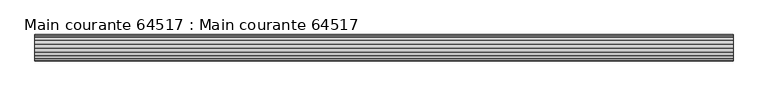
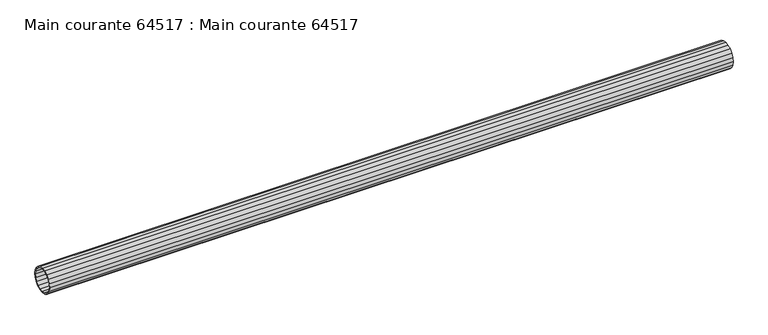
"""IFC4 building model written with IfcOpenShell, lengths in millimetres: beam geometry, Main courante 64517 : Main courante 64517."""

from ifc_helpers import new_model, si_unit, frame, origin, place, context, project, spatial, polyline, outline, extrude, source, transform, mapped, element, save


def main_courante_64517_main_courante_64517_522b7e88(model_context):
    return source(origin(), model_context, "Body", "SweptSolid", [
        extrude(outline(polyline([(-14166.5, 8765.0), (-14165.3180149, 8772.4627604), (-14161.8877604, 8779.1950138), (-14156.5450138, 8784.5377604), (-14149.8127604, 8787.9680149), (-14142.35, 8789.15), (-14134.8872396, 8787.9680149), (-14128.1549862, 8784.5377604), (-14122.8122396, 8779.1950138), (-14119.3819851, 8772.4627604), (-14118.2, 8765.0), (-14119.3819851, 8757.5372396), (-14122.8122396, 8750.8049862), (-14128.1549862, 8745.4622396), (-14134.8872396, 8742.0319851), (-14142.35, 8740.85), (-14149.8127604, 8742.0319851), (-14156.5450138, 8745.4622396), (-14161.8877604, 8750.8049862), (-14165.3180149, 8757.5372396), (-14166.5, 8765.0)]), holes=[polyline([(-14120.7, 8765.0), (-14121.7596264, 8771.6902179), (-14124.8347821, 8777.7255507), (-14129.6244493, 8782.5152179), (-14135.6597821, 8785.5903736), (-14142.35, 8786.65), (-14149.0402179, 8785.5903736), (-14155.0755507, 8782.5152179), (-14159.8652179, 8777.7255507), (-14162.9403736, 8771.6902179), (-14164.0, 8765.0), (-14162.9403736, 8758.3097821), (-14159.8652179, 8752.2744493), (-14155.0755507, 8747.4847821), (-14149.0402179, 8744.4096264), (-14142.35, 8743.35), (-14135.6597821, 8744.4096264), (-14129.6244493, 8747.4847821), (-14124.8347821, 8752.2744493), (-14121.7596264, 8758.3097821), (-14120.7, 8765.0)])]), frame((14098.4999999, 0.0, 0.0), z_axis=(1.0, 0.0, 0.0), x_axis=(0.0, 1.0, 0.0)), (0.0, 0.0, 1.0), 1279.5),
    ])


if __name__ == "__main__":
    model = new_model("IFC4")
    model_context = context("Model", 3, world=origin())
    ifc_project = project(units=[si_unit("LENGTHUNIT", "METRE", prefix="MILLI")], contexts=[model_context])
    site = spatial("IfcSite", under=ifc_project)
    building = spatial("IfcBuilding", under=site)
    placement = place(None, origin())
    main_courante_64517_main_courante_64517_shape = main_courante_64517_main_courante_64517_522b7e88(model_context)
    element("IfcBeam", 1, ObjectType="Main courante 64517 : Main courante 64517", at=placement, inside=building, context=model_context, shape_type="MappedRepresentation", body=[
        mapped(main_courante_64517_main_courante_64517_shape, transform((0.0, 0.0, 0.0), x_axis=(1.0, 0.0, 0.0), y_axis=(0.0, 1.0, 0.0), z_axis=(0.0, 0.0, 1.0))),
    ])
    save(model, "model.ifc")
